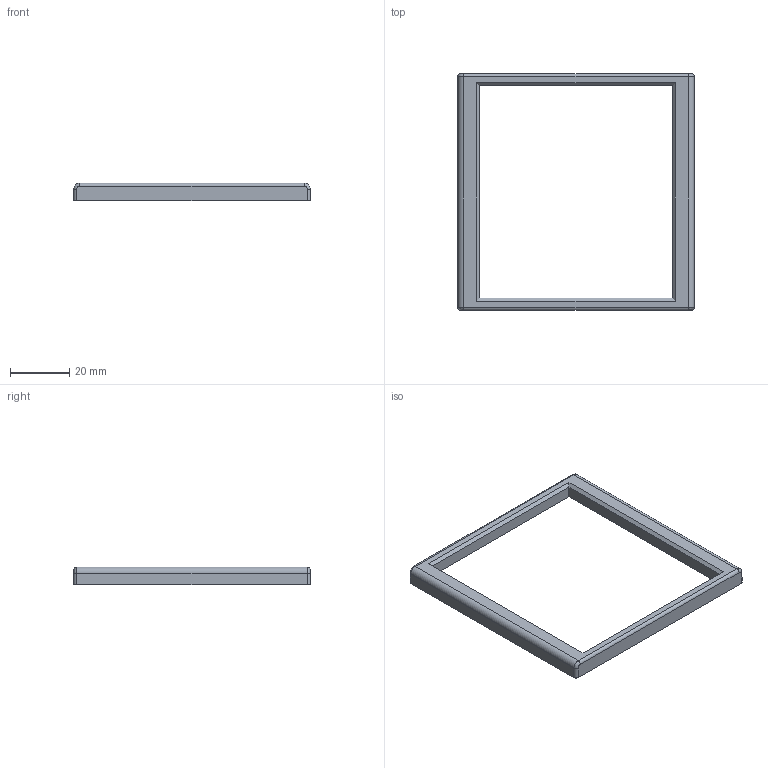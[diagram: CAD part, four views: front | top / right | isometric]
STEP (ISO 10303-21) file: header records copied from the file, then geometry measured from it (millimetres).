
FILE_DESCRIPTION(/* description */ (''),/* implementation_level */ '2;1');
FILE_NAME(/* name */ 'Z:\3D Drucker\Thomas\Spritzenpumpe\Abdeckung.stp',/* time_stamp */ '2018-09-27T12:45:55+02:00',/* author */ ('Holm'),/* organization */ (''),/* preprocessor_version */ 'ST-DEVELOPER v16.13',/* originating_system */ 'Autodesk Inventor 2018',/* authorisation */ '');
FILE_SCHEMA (('AUTOMOTIVE_DESIGN { 1 0 10303 214 3 1 1 }'));
Length unit declared in the file: millimetre
Products named in the file (1): Abdeckung
Bounding box: 80 x 80 x 6 mm (x, y, z)
Volume: 9260.5 mm3; surface area: 6702.1 mm2
Topology: 1 solids, 1 shells, 39 faces, 84 edges, 52 vertices
Faces by surface type: plane 23, cylinder 12, bspline 4
Full cylindrical faces by diameter (mm): 2 x4
Entity records: 1089 total; most frequent: CARTESIAN_POINT 204, DIRECTION 180, ORIENTED_EDGE 160, EDGE_CURVE 80, AXIS2_PLACEMENT_3D 64, LINE 52, VECTOR 52, VERTEX_POINT 52
